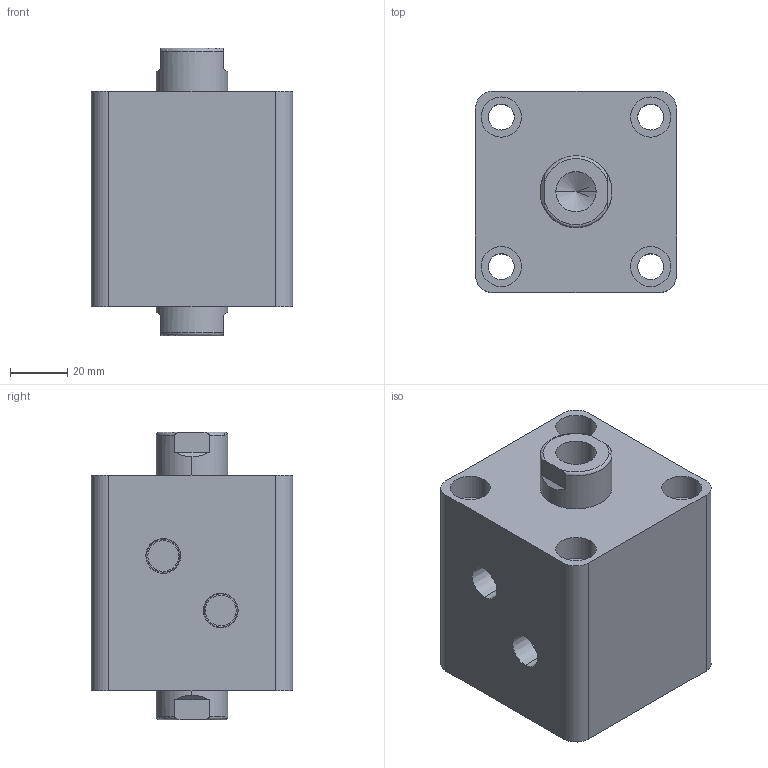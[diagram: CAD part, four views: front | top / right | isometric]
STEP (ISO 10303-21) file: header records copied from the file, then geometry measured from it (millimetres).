
FILE_DESCRIPTION (( 'STEP AP203' ), '1' );
FILE_NAME ('HTB-SW40-5N.STEP', '2019-10-07T09:03:27', ( '微软用户' ), ( '微软中国' ), 'SwSTEP 2.0', 'SolidWorks 2012', '' );
FILE_SCHEMA (( 'CONFIG_CONTROL_DESIGN' ));
Length unit declared in the file: millimetre
Products named in the file (3): HTB-SW40-5N; HTB-SW40-5N活塞杆; HTB-SW40-5掛极
Assembly tree (2 placements, depth 2):
  HTB-SW40-5N
    HTB-SW40-5掛极
    HTB-SW40-5N活塞杆
Bounding box: 70 x 70 x 100 mm (x, y, z)
Volume: 339652.8 mm3; surface area: 59817.9 mm2
Topology: 2 solids, 2 shells, 100 faces, 228 edges, 146 vertices
Faces by surface type: cylinder 48, plane 32, torus 12, cone 8
Entity records: 3237 total; most frequent: CARTESIAN_POINT 595, DIRECTION 542, ORIENTED_EDGE 448, AXIS2_PLACEMENT_3D 229, EDGE_CURVE 224, VERTEX_POINT 146, EDGE_LOOP 128, CIRCLE 124
